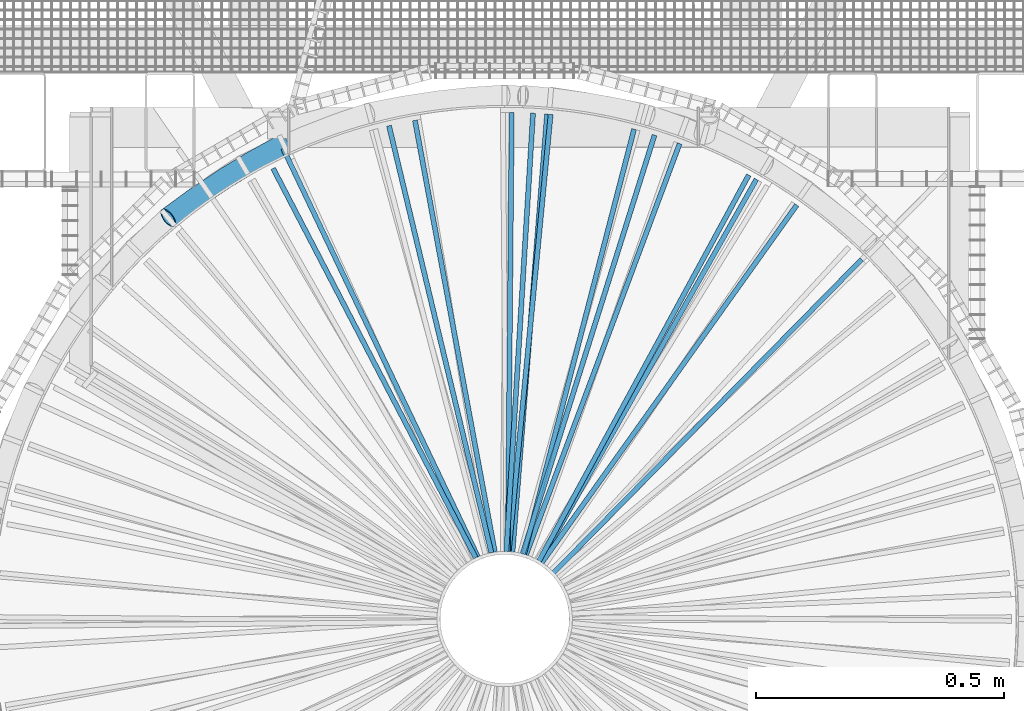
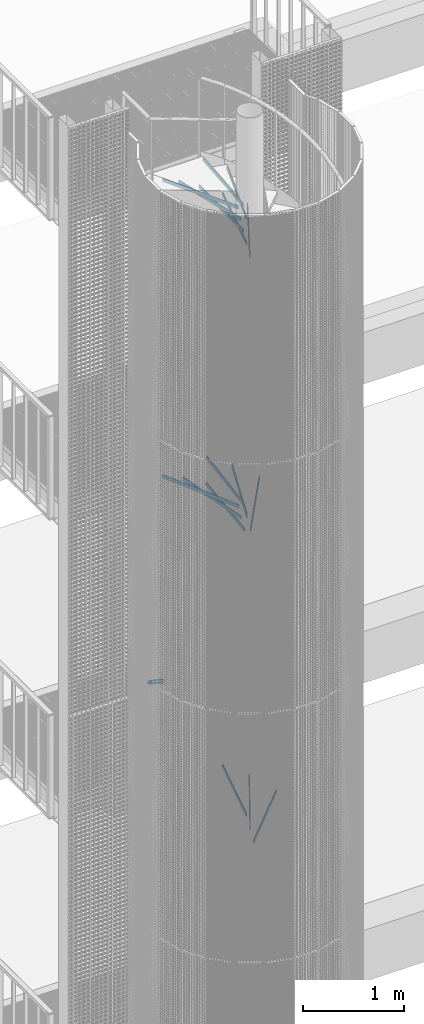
# One storey, part 224 of 1183: 16 beams, 1 member, 4 elements without a shape of their own.
"""IFC2X3 building model written with IfcOpenShell, lengths in millimetres."""

from ifc_helpers import new_model, entity, si_unit, frame, origin_with_axes, origin_2d_with_axis, place, context, subcontext, project, spatial, polyline, rectangle, outline, extrude, boolean, material, type_object, element, aggregate, save


model = new_model("IFC2X3")

# Units and contexts
model_context = context("Model", 3, precision=1e-05, world=origin_with_axes())
body_context = subcontext(model_context, "Body", "Model", "MODEL_VIEW")
ifc_project = project(units=[si_unit("LENGTHUNIT", "METRE", prefix="MILLI"), si_unit("AREAUNIT", "SQUARE_METRE"), si_unit("VOLUMEUNIT", "CUBIC_METRE"), si_unit("MASSUNIT", "GRAM", prefix="KILO"), si_unit("TIMEUNIT", "SECOND"), si_unit("PLANEANGLEUNIT", "RADIAN"), si_unit("SOLIDANGLEUNIT", "STERADIAN"), si_unit("THERMODYNAMICTEMPERATUREUNIT", "DEGREE_CELSIUS"), si_unit("LUMINOUSINTENSITYUNIT", "LUMEN")], contexts=[model_context])

# Site, building, storey
site_placement = place(None, origin_with_axes())
site = spatial("IfcSite", under=ifc_project, at=site_placement, Name="Undefined", CompositionType="ELEMENT")
building_placement = place(site_placement, origin_with_axes())
building = spatial("IfcBuilding", under=site, at=building_placement, Name="Undefined", CompositionType="ELEMENT")
storey_placement = place(building_placement, origin_with_axes())
storey = spatial("IfcBuildingStorey", under=building, at=storey_placement, Name="Undefined", CompositionType="ELEMENT", Elevation=0.0)

# Assembly, beams
assembly_1_placement = place(storey_placement, origin_with_axes())
assembly_1 = element("IfcElementAssembly", 1, at=assembly_1_placement, inside=storey, Name="POTEAU", AssemblyPlace="NOTDEFINED", PredefinedType="NOTDEFINED")
ifc_material = material(Name="STEEL/S235JR")
beam_type = type_object("IfcBeamType", Name="PL10*40", PredefinedType="NOTDEFINED")
beam_1_placement = place(assembly_1_placement, frame((-14.7051172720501, 82.7620424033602, 17109.44), z_axis=(0.0, 0.0, 1.0), x_axis=(-0.233195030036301, 0.972429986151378, 0.0)))
beam_1 = element("IfcBeam", 2, at=beam_1_placement, type_object=beam_type, material=ifc_material, Name="RAIDISSEUR", context=body_context, shape_type="CSG", body=[
    boolean("DIFFERENCE", extrude(rectangle(XDim=10.0, YDim=40.0, at=origin_2d_with_axis()), frame((935.982964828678, -2.59787459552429e-14, -3.63797880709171e-12), z_axis=(-1.0, 0.0, 0.0), x_axis=(0.0, -1.0, 0.0)), (0.0, 0.0, 1.0), 935.98), extrude(outline(polyline([(0.0, 0.0), (30.5663019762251, -4.91127138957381e-11), (60.366242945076, 6.80164206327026), (87.9055294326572, 20.0638634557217), (111.803226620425, 39.1216410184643), (130.861004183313, 63.0193382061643), (144.123225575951, 90.5586246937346), (150.9248676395, 120.358565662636), (150.924867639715, 150.924867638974), (144.123225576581, 180.724808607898), (130.86100418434, 208.264095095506), (111.803226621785, 232.161792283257), (87.9055294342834, 251.219569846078), (60.3662429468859, 264.481791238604), (30.5663019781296, 271.283433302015), (1.90266291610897e-09, 271.28343330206), (-29.7999409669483, 264.481791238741), (-57.3392274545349, 251.219569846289), (-81.2369246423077, 232.161792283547), (-100.294702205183, 208.26409509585), (-113.556923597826, 180.724808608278), (-120.35856566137, 150.92486763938), (-120.358565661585, 120.358565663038), (-113.556923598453, 90.5586246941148), (-100.294702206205, 63.0193382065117), (-81.2369246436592, 39.1216410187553), (-57.3392274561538, 20.0638634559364), (-29.7999409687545, 6.80164206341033), (0.0, 0.0)])), frame((-48.779006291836, 136.901864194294, -22.5), z_axis=(0.0, 0.0, 1.0), x_axis=(-0.989053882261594, 0.147554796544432, 0.0)), (0.0, 0.0, 1.0), 45.0)),
])
beam_2_placement = place(assembly_1_placement, frame((0.110235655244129, 84.0582178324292, 17265.96), z_axis=(0.0, 0.0, 1.0), x_axis=(0.0607915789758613, 0.998150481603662, 0.0)))
beam_2 = element("IfcBeam", 3, at=beam_2_placement, type_object=beam_type, material=ifc_material, Name="RAIDISSEUR", context=body_context, shape_type="CSG", body=[
    boolean("DIFFERENCE", extrude(rectangle(XDim=10.0, YDim=40.0, at=origin_2d_with_axis()), frame((935.982964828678, -2.59787459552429e-14, -3.63797880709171e-12), z_axis=(-1.0, 0.0, 0.0), x_axis=(0.0, -1.0, 0.0)), (0.0, 0.0, 1.0), 935.98), extrude(outline(polyline([(0.0, 0.0), (30.5663019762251, -4.91127138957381e-11), (60.366242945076, 6.80164206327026), (87.9055294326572, 20.0638634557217), (111.803226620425, 39.1216410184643), (130.861004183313, 63.0193382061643), (144.123225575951, 90.5586246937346), (150.9248676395, 120.358565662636), (150.924867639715, 150.924867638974), (144.123225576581, 180.724808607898), (130.86100418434, 208.264095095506), (111.803226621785, 232.161792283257), (87.9055294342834, 251.219569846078), (60.3662429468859, 264.481791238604), (30.5663019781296, 271.283433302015), (1.90266291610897e-09, 271.28343330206), (-29.7999409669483, 264.481791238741), (-57.3392274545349, 251.219569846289), (-81.2369246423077, 232.161792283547), (-100.294702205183, 208.26409509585), (-113.556923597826, 180.724808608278), (-120.35856566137, 150.92486763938), (-120.358565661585, 120.358565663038), (-113.556923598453, 90.5586246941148), (-100.294702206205, 63.0193382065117), (-81.2369246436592, 39.1216410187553), (-57.3392274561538, 20.0638634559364), (-29.7999409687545, 6.80164206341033), (0.0, 0.0)])), frame((-88.8081776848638, 131.412068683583, -22.5), z_axis=(0.0, 0.0, 1.0), x_axis=(-0.98905388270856, -0.147554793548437, 0.0)), (0.0, 0.0, 1.0), 45.0)),
])
beam_3_placement = place(assembly_1_placement, frame((5.75363773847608, 83.861145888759, 16952.92), z_axis=(0.0, 0.0, 1.0), x_axis=(0.00898396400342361, 0.999959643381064, 0.0)))
beam_3 = element("IfcBeam", 4, at=beam_3_placement, type_object=beam_type, material=ifc_material, Name="RAIDISSEUR", context=body_context, shape_type="CSG", body=[
    boolean("DIFFERENCE", extrude(rectangle(XDim=10.0, YDim=40.0, at=origin_2d_with_axis()), frame((935.982964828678, -2.59787459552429e-14, -3.63797880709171e-12), z_axis=(-1.0, 0.0, 0.0), x_axis=(0.0, -1.0, 0.0)), (0.0, 0.0, 1.0), 935.98), extrude(outline(polyline([(0.0, 0.0), (30.5663019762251, -4.91127138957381e-11), (60.366242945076, 6.80164206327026), (87.9055294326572, 20.0638634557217), (111.803226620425, 39.1216410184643), (130.861004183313, 63.0193382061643), (144.123225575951, 90.5586246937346), (150.9248676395, 120.358565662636), (150.924867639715, 150.924867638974), (144.123225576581, 180.724808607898), (130.86100418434, 208.264095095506), (111.803226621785, 232.161792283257), (87.9055294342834, 251.219569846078), (60.3662429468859, 264.481791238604), (30.5663019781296, 271.283433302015), (1.90266291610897e-09, 271.28343330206), (-29.7999409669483, 264.481791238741), (-57.3392274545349, 251.219569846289), (-81.2369246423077, 232.161792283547), (-100.294702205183, 208.26409509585), (-113.556923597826, 180.724808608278), (-120.35856566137, 150.92486763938), (-120.358565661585, 120.358565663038), (-113.556923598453, 90.5586246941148), (-100.294702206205, 63.0193382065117), (-81.2369246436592, 39.1216410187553), (-57.3392274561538, 20.0638634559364), (-29.7999409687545, 6.80164206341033), (0.0, 0.0)])), frame((-81.7324796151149, 141.482639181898, -22.5), z_axis=(0.0, 0.0, 1.0), x_axis=(-0.995371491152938, -0.0961020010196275, 0.0)), (0.0, 0.0, 1.0), 45.0)),
])
beam_4_placement = place(assembly_1_placement, frame((-34.2902626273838, 76.7461662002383, 17265.96), z_axis=(0.0, 0.0, 1.0), x_axis=(-0.461520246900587, 0.88712967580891, 0.0)))
beam_4 = element("IfcBeam", 5, at=beam_4_placement, type_object=beam_type, material=ifc_material, Name="RAIDISSEUR", context=body_context, shape_type="CSG", body=[
    boolean("DIFFERENCE", extrude(rectangle(XDim=10.0, YDim=40.0, at=origin_2d_with_axis()), frame((935.982964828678, -2.59787459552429e-14, -3.63797880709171e-12), z_axis=(-1.0, 0.0, 0.0), x_axis=(0.0, -1.0, 0.0)), (0.0, 0.0, 1.0), 935.98), extrude(outline(polyline([(0.0, 0.0), (30.5663019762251, -4.91127138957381e-11), (60.366242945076, 6.80164206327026), (87.9055294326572, 20.0638634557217), (111.803226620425, 39.1216410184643), (130.861004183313, 63.0193382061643), (144.123225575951, 90.5586246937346), (150.9248676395, 120.358565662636), (150.924867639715, 150.924867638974), (144.123225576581, 180.724808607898), (130.86100418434, 208.264095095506), (111.803226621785, 232.161792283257), (87.9055294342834, 251.219569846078), (60.3662429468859, 264.481791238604), (30.5663019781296, 271.283433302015), (1.90266291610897e-09, 271.28343330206), (-29.7999409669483, 264.481791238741), (-57.3392274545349, 251.219569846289), (-81.2369246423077, 232.161792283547), (-100.294702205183, 208.26409509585), (-113.556923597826, 180.724808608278), (-120.35856566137, 150.92486763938), (-120.358565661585, 120.358565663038), (-113.556923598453, 90.5586246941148), (-100.294702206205, 63.0193382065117), (-81.2369246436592, 39.1216410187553), (-57.3392274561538, 20.0638634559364), (-29.7999409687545, 6.80164206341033), (0.0, 0.0)])), frame((-17.912581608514, 124.484991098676, -22.5), z_axis=(0.0, 0.0, 1.0), x_axis=(-0.923978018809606, 0.382445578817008, 0.0)), (0.0, 0.0, 1.0), 45.0)),
])
beam_5_placement = place(assembly_1_placement, frame((25.8705774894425, 79.9781805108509, 16796.4), z_axis=(0.0, 0.0, 1.0), x_axis=(0.250629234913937, 0.968083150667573, 0.0)))
beam_5 = element("IfcBeam", 6, at=beam_5_placement, type_object=beam_type, material=ifc_material, Name="RAIDISSEUR", context=body_context, shape_type="CSG", body=[
    boolean("DIFFERENCE", extrude(rectangle(XDim=10.0, YDim=40.0, at=origin_2d_with_axis()), frame((935.982964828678, -2.59787459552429e-14, -3.63797880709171e-12), z_axis=(-1.0, 0.0, 0.0), x_axis=(0.0, -1.0, 0.0)), (0.0, 0.0, 1.0), 935.98), extrude(outline(polyline([(0.0, 0.0), (30.5663019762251, -4.91127138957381e-11), (60.366242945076, 6.80164206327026), (87.9055294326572, 20.0638634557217), (111.803226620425, 39.1216410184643), (130.861004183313, 63.0193382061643), (144.123225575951, 90.5586246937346), (150.9248676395, 120.358565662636), (150.924867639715, 150.924867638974), (144.123225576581, 180.724808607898), (130.86100418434, 208.264095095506), (111.803226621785, 232.161792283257), (87.9055294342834, 251.219569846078), (60.3662429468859, 264.481791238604), (30.5663019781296, 271.283433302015), (1.90266291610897e-09, 271.28343330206), (-29.7999409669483, 264.481791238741), (-57.3392274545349, 251.219569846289), (-81.2369246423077, 232.161792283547), (-100.294702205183, 208.26409509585), (-113.556923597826, 180.724808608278), (-120.35856566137, 150.92486763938), (-120.358565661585, 120.358565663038), (-113.556923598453, 90.5586246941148), (-100.294702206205, 63.0193382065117), (-81.2369246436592, 39.1216410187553), (-57.3392274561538, 20.0638634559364), (-29.7999409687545, 6.80164206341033), (0.0, 0.0)])), frame((-114.815283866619, 137.955178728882, -22.5), z_axis=(0.0, 0.0, 1.0), x_axis=(-0.942555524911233, -0.33404952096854, 0.0)), (0.0, 0.0, 1.0), 45.0)),
])
beam_6_placement = place(assembly_1_placement, frame((20.4424845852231, 81.5346611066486, 17109.44), z_axis=(0.0, 0.0, 1.0), x_axis=(0.300460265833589, 0.953794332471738, 0.0)))
beam_6 = element("IfcBeam", 7, at=beam_6_placement, type_object=beam_type, material=ifc_material, Name="RAIDISSEUR", context=body_context, shape_type="CSG", body=[
    boolean("DIFFERENCE", extrude(rectangle(XDim=10.0, YDim=40.0, at=origin_2d_with_axis()), frame((935.982964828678, -2.59787459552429e-14, -3.63797880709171e-12), z_axis=(-1.0, 0.0, 0.0), x_axis=(0.0, -1.0, 0.0)), (0.0, 0.0, 1.0), 935.98), extrude(outline(polyline([(0.0, 0.0), (30.5663019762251, -4.91127138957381e-11), (60.366242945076, 6.80164206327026), (87.9055294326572, 20.0638634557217), (111.803226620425, 39.1216410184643), (130.861004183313, 63.0193382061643), (144.123225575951, 90.5586246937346), (150.9248676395, 120.358565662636), (150.924867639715, 150.924867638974), (144.123225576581, 180.724808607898), (130.86100418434, 208.264095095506), (111.803226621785, 232.161792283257), (87.9055294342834, 251.219569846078), (60.3662429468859, 264.481791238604), (30.5663019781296, 271.283433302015), (1.90266291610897e-09, 271.28343330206), (-29.7999409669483, 264.481791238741), (-57.3392274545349, 251.219569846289), (-81.2369246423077, 232.161792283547), (-100.294702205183, 208.26409509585), (-113.556923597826, 180.724808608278), (-120.35856566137, 150.92486763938), (-120.358565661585, 120.358565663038), (-113.556923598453, 90.5586246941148), (-100.294702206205, 63.0193382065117), (-81.2369246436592, 39.1216410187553), (-57.3392274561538, 20.0638634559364), (-29.7999409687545, 6.80164206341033), (0.0, 0.0)])), frame((-121.663730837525, 126.174938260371, -22.5), z_axis=(0.0, 0.0, 1.0), x_axis=(-0.923978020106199, -0.382445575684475, 0.0)), (0.0, 0.0, 1.0), 45.0)),
])
beam_7_placement = place(assembly_1_placement, frame((44.4505838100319, 71.3438275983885, 16639.88), z_axis=(0.0, 0.0, 1.0), x_axis=(0.477384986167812, 0.878694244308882, 0.0)))
beam_7 = element("IfcBeam", 8, at=beam_7_placement, type_object=beam_type, material=ifc_material, Name="RAIDISSEUR", context=body_context, shape_type="CSG", body=[
    boolean("DIFFERENCE", extrude(rectangle(XDim=10.0, YDim=40.0, at=origin_2d_with_axis()), frame((935.982964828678, -2.59787459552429e-14, -3.63797880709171e-12), z_axis=(-1.0, 0.0, 0.0), x_axis=(0.0, -1.0, 0.0)), (0.0, 0.0, 1.0), 935.98), extrude(outline(polyline([(0.0, 0.0), (30.5663019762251, -4.91127138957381e-11), (60.366242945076, 6.80164206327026), (87.9055294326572, 20.0638634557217), (111.803226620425, 39.1216410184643), (130.861004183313, 63.0193382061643), (144.123225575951, 90.5586246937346), (150.9248676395, 120.358565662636), (150.924867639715, 150.924867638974), (144.123225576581, 180.724808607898), (130.86100418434, 208.264095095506), (111.803226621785, 232.161792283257), (87.9055294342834, 251.219569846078), (60.3662429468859, 264.481791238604), (30.5663019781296, 271.283433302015), (1.90266291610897e-09, 271.28343330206), (-29.7999409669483, 264.481791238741), (-57.3392274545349, 251.219569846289), (-81.2369246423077, 232.161792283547), (-100.294702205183, 208.26409509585), (-113.556923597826, 180.724808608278), (-120.35856566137, 150.92486763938), (-120.358565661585, 120.358565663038), (-113.556923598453, 90.5586246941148), (-100.294702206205, 63.0193382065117), (-81.2369246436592, 39.1216410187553), (-57.3392274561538, 20.0638634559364), (-29.7999409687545, 6.80164206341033), (0.0, 0.0)])), frame((-146.062017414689, 126.529044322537, -22.5), z_axis=(0.0, 0.0, 1.0), x_axis=(-0.83374370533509, -0.552151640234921, 0.0)), (0.0, 0.0, 1.0), 45.0)),
])
aggregate(assembly_1, [beam_1, beam_2, beam_3, beam_4, beam_5, beam_6, beam_7])

assembly_2_placement = place(storey_placement, origin_with_axes())
assembly_2 = element("IfcElementAssembly", 9, at=assembly_2_placement, inside=storey, Name="POTEAU", AssemblyPlace="NOTDEFINED", PredefinedType="NOTDEFINED")
beam_8_placement = place(assembly_2_placement, frame((3.043757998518, 84.0031646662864, 13665.96), z_axis=(0.0, 0.0, 1.0), x_axis=(0.0955894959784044, 0.995420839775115, 0.0)))
beam_8 = element("IfcBeam", 10, at=beam_8_placement, type_object=beam_type, material=ifc_material, Name="RAIDISSEUR", context=body_context, shape_type="CSG", body=[
    boolean("DIFFERENCE", extrude(rectangle(XDim=10.0, YDim=40.0, at=origin_2d_with_axis()), frame((935.982964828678, -2.59787459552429e-14, -3.63797880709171e-12), z_axis=(-1.0, 0.0, 0.0), x_axis=(0.0, -1.0, 0.0)), (0.0, 0.0, 1.0), 935.98), extrude(outline(polyline([(0.0, 0.0), (30.5663019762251, -4.91127138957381e-11), (60.366242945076, 6.80164206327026), (87.9055294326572, 20.0638634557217), (111.803226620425, 39.1216410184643), (130.861004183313, 63.0193382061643), (144.123225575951, 90.5586246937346), (150.9248676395, 120.358565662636), (150.924867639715, 150.924867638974), (144.123225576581, 180.724808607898), (130.86100418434, 208.264095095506), (111.803226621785, 232.161792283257), (87.9055294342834, 251.219569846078), (60.3662429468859, 264.481791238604), (30.5663019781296, 271.283433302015), (1.90266291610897e-09, 271.28343330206), (-29.7999409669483, 264.481791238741), (-57.3392274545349, 251.219569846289), (-81.2369246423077, 232.161792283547), (-100.294702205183, 208.26409509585), (-113.556923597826, 180.724808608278), (-120.35856566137, 150.92486763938), (-120.358565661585, 120.358565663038), (-113.556923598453, 90.5586246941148), (-100.294702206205, 63.0193382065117), (-81.2369246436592, 39.1216410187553), (-57.3392274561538, 20.0638634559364), (-29.7999409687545, 6.80164206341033), (0.0, 0.0)])), frame((-93.5659060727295, 131.158007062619, -22.5000000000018), z_axis=(0.0, 0.0, 1.0), x_axis=(-0.983301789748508, -0.181982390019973, 0.0)), (0.0, 0.0, 1.0), 45.0)),
])
beam_9_placement = place(assembly_2_placement, frame((-31.59098121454, 77.8961481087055, 13665.96), z_axis=(0.0, 0.0, 1.0), x_axis=(-0.430274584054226, 0.902698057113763, 0.0)))
beam_9 = element("IfcBeam", 11, at=beam_9_placement, type_object=beam_type, material=ifc_material, Name="RAIDISSEUR", context=body_context, shape_type="CSG", body=[
    boolean("DIFFERENCE", extrude(rectangle(XDim=10.0, YDim=40.0, at=origin_2d_with_axis()), frame((963.276868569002, 0.0, 0.0), z_axis=(-1.0, 0.0, 0.0), x_axis=(0.0, -1.0, 0.0)), (0.0, 0.0, 1.0), 963.28), extrude(outline(polyline([(0.0, 0.0), (30.5663019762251, -4.91127138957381e-11), (60.366242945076, 6.80164206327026), (87.9055294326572, 20.0638634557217), (111.803226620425, 39.1216410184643), (130.861004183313, 63.0193382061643), (144.123225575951, 90.5586246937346), (150.9248676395, 120.358565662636), (150.924867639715, 150.924867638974), (144.123225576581, 180.724808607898), (130.86100418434, 208.264095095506), (111.803226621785, 232.161792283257), (87.9055294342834, 251.219569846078), (60.3662429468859, 264.481791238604), (30.5663019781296, 271.283433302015), (1.90266291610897e-09, 271.28343330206), (-29.7999409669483, 264.481791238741), (-57.3392274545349, 251.219569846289), (-81.2369246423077, 232.161792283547), (-100.294702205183, 208.26409509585), (-113.556923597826, 180.724808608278), (-120.35856566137, 150.92486763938), (-120.358565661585, 120.358565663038), (-113.556923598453, 90.5586246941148), (-100.294702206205, 63.0193382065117), (-81.2369246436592, 39.1216410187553), (-57.3392274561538, 20.0638634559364), (-29.7999409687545, 6.80164206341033), (0.0, 0.0)])), frame((-22.1233549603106, 126.715360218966, -22.4999999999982), z_axis=(0.0, 0.0, 1.0), x_axis=(-0.936763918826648, 0.349961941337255, 0.0)), (0.0, 0.0, 1.0), 45.0)),
])
beam_10_placement = place(assembly_2_placement, frame((24.6816633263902, 80.3530437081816, 13509.44), z_axis=(0.0, 0.0, 1.0), x_axis=(0.349966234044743, 0.936762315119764, 0.0)))
beam_10 = element("IfcBeam", 12, at=beam_10_placement, type_object=beam_type, material=ifc_material, Name="RAIDISSEUR", context=body_context, shape_type="CSG", body=[
    boolean("DIFFERENCE", extrude(rectangle(XDim=10.0, YDim=40.0, at=origin_2d_with_axis()), frame((935.982964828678, -2.59787459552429e-14, -3.63797880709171e-12), z_axis=(-1.0, 0.0, 0.0), x_axis=(0.0, -1.0, 0.0)), (0.0, 0.0, 1.0), 935.98), extrude(outline(polyline([(0.0, 0.0), (30.5663019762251, -4.91127138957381e-11), (60.366242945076, 6.80164206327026), (87.9055294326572, 20.0638634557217), (111.803226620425, 39.1216410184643), (130.861004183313, 63.0193382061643), (144.123225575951, 90.5586246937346), (150.9248676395, 120.358565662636), (150.924867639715, 150.924867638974), (144.123225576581, 180.724808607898), (130.86100418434, 208.264095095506), (111.803226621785, 232.161792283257), (87.9055294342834, 251.219569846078), (60.3662429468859, 264.481791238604), (30.5663019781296, 271.283433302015), (1.90266291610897e-09, 271.28343330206), (-29.7999409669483, 264.481791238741), (-57.3392274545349, 251.219569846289), (-81.2369246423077, 232.161792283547), (-100.294702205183, 208.26409509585), (-113.556923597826, 180.724808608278), (-120.35856566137, 150.92486763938), (-120.358565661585, 120.358565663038), (-113.556923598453, 90.5586246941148), (-100.294702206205, 63.0193382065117), (-81.2369246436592, 39.1216410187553), (-57.3392274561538, 20.0638634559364), (-29.7999409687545, 6.80164206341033), (0.0, 0.0)])), frame((-128.477155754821, 124.019261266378, -22.5000000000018), z_axis=(0.0, 0.0, 1.0), x_axis=(-0.902696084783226, -0.430278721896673, 0.0)), (0.0, 0.0, 1.0), 45.0)),
])
beam_11_placement = place(assembly_2_placement, frame((-10.3535337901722, 83.4182262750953, 13509.44), z_axis=(0.0, 0.0, 1.0), x_axis=(-0.181982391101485, 0.983301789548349, 0.0)))
beam_11 = element("IfcBeam", 13, at=beam_11_placement, type_object=beam_type, material=ifc_material, Name="RAIDISSEUR", context=body_context, shape_type="CSG", body=[
    boolean("DIFFERENCE", extrude(rectangle(XDim=10.0, YDim=40.0, at=origin_2d_with_axis()), frame((935.982964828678, -2.59787459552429e-14, -3.63797880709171e-12), z_axis=(-1.0, 0.0, 0.0), x_axis=(0.0, -1.0, 0.0)), (0.0, 0.0, 1.0), 935.98), extrude(outline(polyline([(0.0, 0.0), (30.5663019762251, -4.91127138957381e-11), (60.366242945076, 6.80164206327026), (87.9055294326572, 20.0638634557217), (111.803226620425, 39.1216410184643), (130.861004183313, 63.0193382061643), (144.123225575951, 90.5586246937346), (150.9248676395, 120.358565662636), (150.924867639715, 150.924867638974), (144.123225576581, 180.724808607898), (130.86100418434, 208.264095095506), (111.803226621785, 232.161792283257), (87.9055294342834, 251.219569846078), (60.3662429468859, 264.481791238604), (30.5663019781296, 271.283433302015), (1.90266291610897e-09, 271.28343330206), (-29.7999409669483, 264.481791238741), (-57.3392274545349, 251.219569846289), (-81.2369246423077, 232.161792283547), (-100.294702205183, 208.26409509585), (-113.556923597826, 180.724808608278), (-120.35856566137, 150.92486763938), (-120.358565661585, 120.358565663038), (-113.556923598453, 90.5586246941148), (-100.294702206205, 63.0193382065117), (-81.2369246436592, 39.1216410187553), (-57.3392274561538, 20.0638634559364), (-29.7999409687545, 6.80164206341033), (0.0, 0.0)])), frame((-55.7303615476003, 138.559682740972, -22.5000000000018), z_axis=(0.0, 0.0, 1.0), x_axis=(-0.995420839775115, 0.0955894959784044, 0.0)), (0.0, 0.0, 1.0), 45.0)),
])
beam_12_placement = place(assembly_2_placement, frame((44.6375540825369, 71.2269955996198, 13352.92), z_axis=(0.0, 0.0, 1.0), x_axis=(0.580493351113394, 0.814264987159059, 0.0)))
beam_12 = element("IfcBeam", 14, at=beam_12_placement, type_object=beam_type, material=ifc_material, Name="RAIDISSEUR", context=body_context, shape_type="CSG", body=[
    boolean("DIFFERENCE", extrude(rectangle(XDim=10.0, YDim=40.0, at=origin_2d_with_axis()), frame((935.982964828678, -2.59787459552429e-14, -3.63797880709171e-12), z_axis=(-1.0, 0.0, 0.0), x_axis=(0.0, -1.0, 0.0)), (0.0, 0.0, 1.0), 935.98), extrude(outline(polyline([(0.0, 0.0), (30.5663019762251, -4.91127138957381e-11), (60.366242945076, 6.80164206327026), (87.9055294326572, 20.0638634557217), (111.803226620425, 39.1216410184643), (130.861004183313, 63.0193382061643), (144.123225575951, 90.5586246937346), (150.9248676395, 120.358565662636), (150.924867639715, 150.924867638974), (144.123225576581, 180.724808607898), (130.86100418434, 208.264095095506), (111.803226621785, 232.161792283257), (87.9055294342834, 251.219569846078), (60.3662429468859, 264.481791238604), (30.5663019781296, 271.283433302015), (1.90266291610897e-09, 271.28343330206), (-29.7999409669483, 264.481791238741), (-57.3392274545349, 251.219569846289), (-81.2369246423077, 232.161792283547), (-100.294702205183, 208.26409509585), (-113.556923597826, 180.724808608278), (-120.35856566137, 150.92486763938), (-120.358565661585, 120.358565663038), (-113.556923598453, 90.5586246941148), (-100.294702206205, 63.0193382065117), (-81.2369246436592, 39.1216410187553), (-57.3392274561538, 20.0638634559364), (-29.7999409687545, 6.80164206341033), (0.0, 0.0)])), frame((-160.351190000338, 108.088066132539, -22.4999999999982), z_axis=(0.0, 0.0, 1.0), x_axis=(-0.760573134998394, -0.649252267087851, 0.0)), (0.0, 0.0, 1.0), 45.0)),
])
beam_13_placement = place(assembly_2_placement, frame((11.589479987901, 83.2555108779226, 13352.92), z_axis=(0.0, 0.0, 1.0), x_axis=(0.0787157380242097, 0.996897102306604, 0.0)))
beam_13 = element("IfcBeam", 15, at=beam_13_placement, type_object=beam_type, material=ifc_material, Name="RAIDISSEUR", context=body_context, shape_type="CSG", body=[
    boolean("DIFFERENCE", extrude(rectangle(XDim=10.0, YDim=40.0, at=origin_2d_with_axis()), frame((935.982964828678, -2.59787459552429e-14, -3.63797880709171e-12), z_axis=(-1.0, 0.0, 0.0), x_axis=(0.0, -1.0, 0.0)), (0.0, 0.0, 1.0), 935.98), extrude(outline(polyline([(0.0, 0.0), (30.5663019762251, -4.91127138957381e-11), (60.366242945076, 6.80164206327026), (87.9055294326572, 20.0638634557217), (111.803226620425, 39.1216410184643), (130.861004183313, 63.0193382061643), (144.123225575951, 90.5586246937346), (150.9248676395, 120.358565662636), (150.924867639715, 150.924867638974), (144.123225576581, 180.724808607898), (130.86100418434, 208.264095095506), (111.803226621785, 232.161792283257), (87.9055294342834, 251.219569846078), (60.3662429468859, 264.481791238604), (30.5663019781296, 271.283433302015), (1.90266291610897e-09, 271.28343330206), (-29.7999409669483, 264.481791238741), (-57.3392274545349, 251.219569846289), (-81.2369246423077, 232.161792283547), (-100.294702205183, 208.26409509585), (-113.556923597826, 180.724808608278), (-120.35856566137, 150.92486763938), (-120.358565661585, 120.358565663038), (-113.556923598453, 90.5586246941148), (-100.294702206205, 63.0193382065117), (-81.2369246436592, 39.1216410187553), (-57.3392274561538, 20.0638634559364), (-29.7999409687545, 6.80164206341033), (0.0, 0.0)])), frame((-91.2583302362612, 141.302032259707, -22.5000000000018), z_axis=(0.0, 0.0, 1.0), x_axis=(-0.986243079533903, -0.165301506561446, 0.0)), (0.0, 0.0, 1.0), 45.0)),
])
aggregate(assembly_2, [beam_8, beam_9, beam_10, beam_11, beam_12, beam_13])

assembly_3_placement = place(storey_placement, origin_with_axes())
assembly_3 = element("IfcElementAssembly", 16, at=assembly_3_placement, inside=storey, Name="POTEAU", AssemblyPlace="NOTDEFINED", PredefinedType="NOTDEFINED")
beam_14_placement = place(assembly_3_placement, frame((45.6889352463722, 70.5571919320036, 9752.92000000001), z_axis=(0.0, 0.0, 1.0), x_axis=(0.492647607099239, 0.870228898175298, 0.0)))
beam_14 = element("IfcBeam", 17, at=beam_14_placement, type_object=beam_type, material=ifc_material, Name="RAIDISSEUR", context=body_context, shape_type="CSG", body=[
    boolean("DIFFERENCE", extrude(rectangle(XDim=10.0, YDim=40.0, at=origin_2d_with_axis()), frame((935.982964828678, -2.59787459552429e-14, -3.63797880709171e-12), z_axis=(-1.0, 0.0, 0.0), x_axis=(0.0, -1.0, 0.0)), (0.0, 0.0, 1.0), 935.98), extrude(outline(polyline([(0.0, 0.0), (30.5663019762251, -4.91127138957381e-11), (60.366242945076, 6.80164206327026), (87.9055294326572, 20.0638634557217), (111.803226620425, 39.1216410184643), (130.861004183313, 63.0193382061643), (144.123225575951, 90.5586246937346), (150.9248676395, 120.358565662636), (150.924867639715, 150.924867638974), (144.123225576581, 180.724808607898), (130.86100418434, 208.264095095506), (111.803226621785, 232.161792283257), (87.9055294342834, 251.219569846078), (60.3662429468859, 264.481791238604), (30.5663019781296, 271.283433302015), (1.90266291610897e-09, 271.28343330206), (-29.7999409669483, 264.481791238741), (-57.3392274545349, 251.219569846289), (-81.2369246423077, 232.161792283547), (-100.294702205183, 208.26409509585), (-113.556923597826, 180.724808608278), (-120.35856566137, 150.92486763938), (-120.358565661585, 120.358565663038), (-113.556923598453, 90.5586246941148), (-100.294702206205, 63.0193382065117), (-81.2369246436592, 39.1216410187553), (-57.3392274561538, 20.0638634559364), (-29.7999409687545, 6.80164206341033), (0.0, 0.0)])), frame((-148.173525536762, 125.425823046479, -22.5), z_axis=(0.0, 0.0, 1.0), x_axis=(-0.823980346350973, -0.56661838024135, 0.0)), (0.0, 0.0, 1.0), 45.0)),
])
beam_15_placement = place(assembly_3_placement, frame((62.3936675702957, 56.3278473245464, 9596.40000000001), z_axis=(0.0, 0.0, 1.0), x_axis=(0.701092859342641, 0.713069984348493, 0.0)))
beam_15 = element("IfcBeam", 18, at=beam_15_placement, type_object=beam_type, material=ifc_material, Name="RAIDISSEUR", context=body_context, shape_type="CSG", body=[
    boolean("DIFFERENCE", extrude(rectangle(XDim=10.0, YDim=40.0, at=origin_2d_with_axis()), frame((935.982964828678, -2.59787459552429e-14, -3.63797880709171e-12), z_axis=(-1.0, 0.0, 0.0), x_axis=(0.0, -1.0, 0.0)), (0.0, 0.0, 1.0), 935.98), extrude(outline(polyline([(0.0, 0.0), (30.5663019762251, -4.91127138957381e-11), (60.366242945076, 6.80164206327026), (87.9055294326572, 20.0638634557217), (111.803226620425, 39.1216410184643), (130.861004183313, 63.0193382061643), (144.123225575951, 90.5586246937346), (150.9248676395, 120.358565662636), (150.924867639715, 150.924867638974), (144.123225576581, 180.724808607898), (130.86100418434, 208.264095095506), (111.803226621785, 232.161792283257), (87.9055294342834, 251.219569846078), (60.3662429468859, 264.481791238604), (30.5663019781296, 271.283433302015), (1.90266291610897e-09, 271.28343330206), (-29.7999409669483, 264.481791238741), (-57.3392274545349, 251.219569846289), (-81.2369246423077, 232.161792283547), (-100.294702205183, 208.26409509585), (-113.556923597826, 180.724808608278), (-120.35856566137, 150.92486763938), (-120.358565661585, 120.358565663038), (-113.556923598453, 90.5586246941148), (-100.294702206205, 63.0193382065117), (-81.2369246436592, 39.1216410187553), (-57.3392274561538, 20.0638634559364), (-29.7999409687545, 6.80164206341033), (0.0, 0.0)])), frame((-177.152276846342, 104.689646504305, -22.5), z_axis=(0.0, 0.0, 1.0), x_axis=(-0.649252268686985, -0.760573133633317, 0.0)), (0.0, 0.0, 1.0), 45.0)),
])
beam_16_placement = place(assembly_3_placement, frame((25.8705774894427, 79.978180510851, 9909.44000000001), z_axis=(0.0, 0.0, 1.0), x_axis=(0.250629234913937, 0.968083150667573, 0.0)))
beam_16 = element("IfcBeam", 19, at=beam_16_placement, type_object=beam_type, material=ifc_material, Name="RAIDISSEUR", context=body_context, shape_type="CSG", body=[
    boolean("DIFFERENCE", extrude(rectangle(XDim=10.0, YDim=40.0, at=origin_2d_with_axis()), frame((935.982964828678, -2.59787459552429e-14, -3.63797880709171e-12), z_axis=(-1.0, 0.0, 0.0), x_axis=(0.0, -1.0, 0.0)), (0.0, 0.0, 1.0), 935.98), extrude(outline(polyline([(0.0, 0.0), (30.5663019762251, -4.91127138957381e-11), (60.366242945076, 6.80164206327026), (87.9055294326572, 20.0638634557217), (111.803226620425, 39.1216410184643), (130.861004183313, 63.0193382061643), (144.123225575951, 90.5586246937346), (150.9248676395, 120.358565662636), (150.924867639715, 150.924867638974), (144.123225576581, 180.724808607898), (130.86100418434, 208.264095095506), (111.803226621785, 232.161792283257), (87.9055294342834, 251.219569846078), (60.3662429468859, 264.481791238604), (30.5663019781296, 271.283433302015), (1.90266291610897e-09, 271.28343330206), (-29.7999409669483, 264.481791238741), (-57.3392274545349, 251.219569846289), (-81.2369246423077, 232.161792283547), (-100.294702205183, 208.26409509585), (-113.556923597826, 180.724808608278), (-120.35856566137, 150.92486763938), (-120.358565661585, 120.358565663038), (-113.556923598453, 90.5586246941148), (-100.294702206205, 63.0193382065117), (-81.2369246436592, 39.1216410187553), (-57.3392274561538, 20.0638634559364), (-29.7999409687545, 6.80164206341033), (0.0, 0.0)])), frame((-114.815283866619, 137.955178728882, -22.5), z_axis=(0.0, 0.0, 1.0), x_axis=(-0.942555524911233, -0.33404952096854, 0.0)), (0.0, 0.0, 1.0), 45.0)),
])
aggregate(assembly_3, [beam_14, beam_15, beam_16])

# Assembly, member
assembly_4_placement = place(storey_placement, origin_with_axes())
assembly_4 = element("IfcElementAssembly", 20, at=assembly_4_placement, inside=storey, Name="MONTANT", AssemblyPlace="NOTDEFINED", PredefinedType="NOTDEFINED")
member_type = type_object("IfcMemberType", Name="TUBE-42.4*3.2", PredefinedType="NOTDEFINED")
member_placement = place(assembly_4_placement, frame((-445.439647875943, 955.248407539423, 11190.0000000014), z_axis=(-0.537299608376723, 0.843391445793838, 2.43751856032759e-10), x_axis=(-0.733080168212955, -0.467023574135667, 0.494451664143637)))
member = element("IfcMember", 21, at=member_placement, type_object=member_type, material=ifc_material, Name="MAIN_COURANTE", context=body_context, shape_type="SweptSolid", body=[
    entity("IfcRevolvedAreaSolid", entity("IfcCircleHollowProfileDef", "AREA", None, entity("IfcAxis2Placement2D", entity("IfcCartesianPoint", [0.0, 0.0]), entity("IfcDirection", [1.0, 0.0])), 21.200000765, 3.200000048), entity("IfcAxis2Placement3D", entity("IfcCartesianPoint", [316.552681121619, 9.09494701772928e-13, -1.82569453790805e-12]), entity("IfcDirection", [-0.997177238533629, 2.1263748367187e-18, 0.0750836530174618]), entity("IfcDirection", [0.0, -1.0, 0.0])), entity("IfcAxis1Placement", entity("IfcCartesianPoint", [0.0, -2108.0, 0.0]), entity("IfcDirection", [1.0, 0.0, 0.0])), 0.150308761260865),
])
aggregate(assembly_4, [member])

save(model, "model.ifc")
